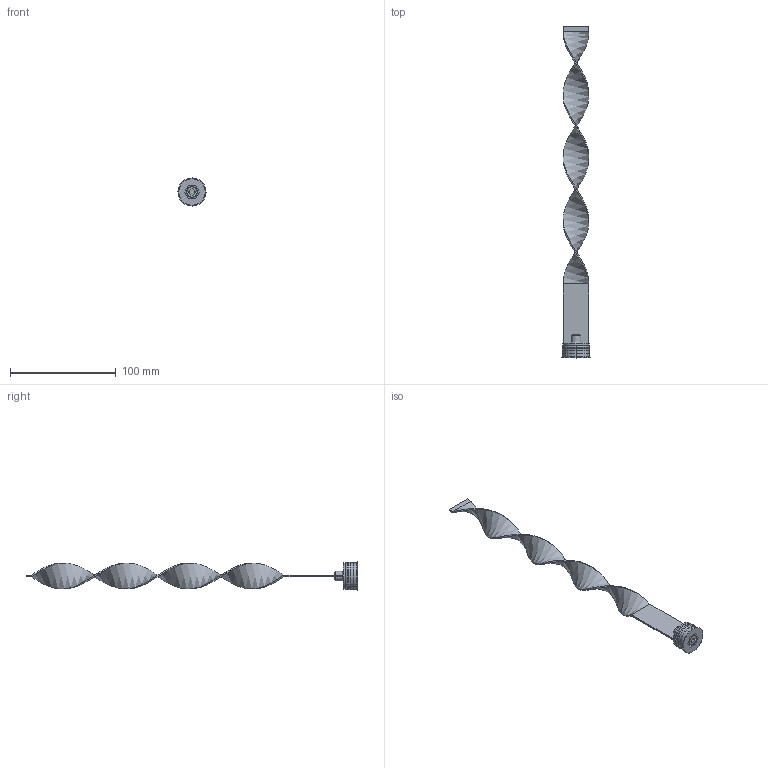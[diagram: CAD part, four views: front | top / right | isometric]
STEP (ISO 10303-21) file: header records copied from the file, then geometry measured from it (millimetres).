
FILE_DESCRIPTION (( 'STEP AP203' ), '1' );
FILE_NAME ('RLS-25Fx300-24,5.STEP', '2015-12-10T15:36:02', ( 'Balzi' ), ( '' ), 'SwSTEP 2.0', 'SolidWorks 2015', '' );
FILE_SCHEMA (( 'CONFIG_CONTROL_DESIGN' ));
Length unit declared in the file: millimetre
Products named in the file (1): RLS-25Fx300-24,5
Bounding box: 26.5 x 314 x 26.5 mm (x, y, z)
Volume: 17944.4 mm3; surface area: 19322 mm2
Topology: 1 solids, 1 shells, 83 faces, 193 edges, 117 vertices
Faces by surface type: plane 35, cone 19, cylinder 17, torus 8, bspline 4
Entity records: 4141 total; most frequent: CARTESIAN_POINT 2176, DIRECTION 406, ORIENTED_EDGE 386, EDGE_CURVE 193, AXIS2_PLACEMENT_3D 151, VERTEX_POINT 117, VECTOR 104, LINE 104
